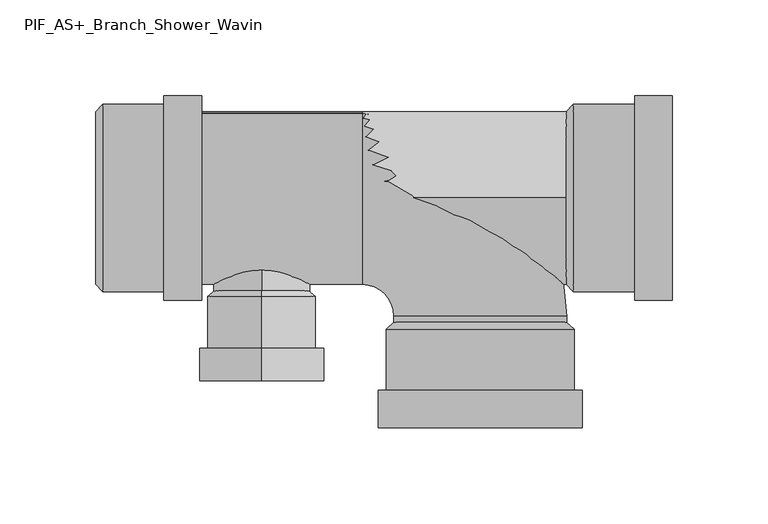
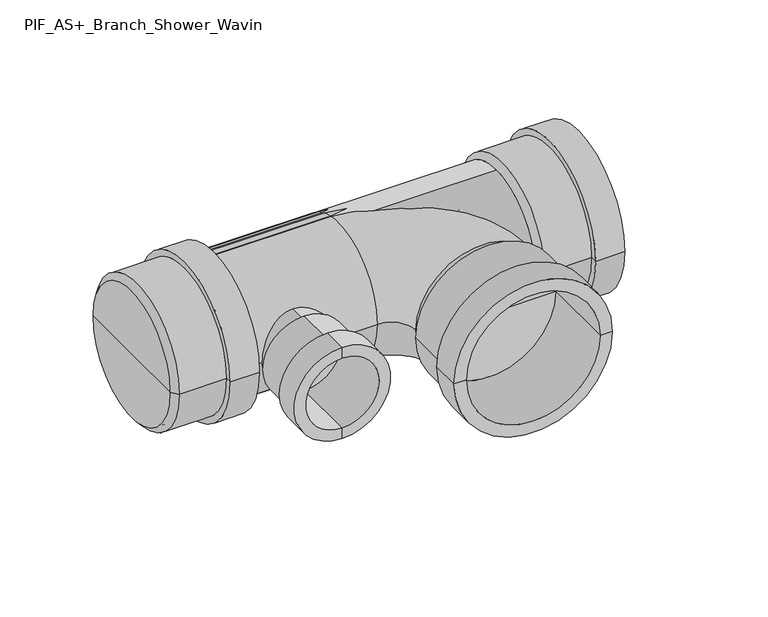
"""IFC4 building model written with IfcOpenShell, lengths in millimetres: pipe fitting geometry, PIF_AS+_Branch_Shower_Wavin : 1. DN100-50/90-50 Standard."""

from ifc_helpers import new_model, si_unit, point, frame, frame_2d, origin, origin_2d, place, context, project, spatial, polyline, circle_curve, ellipse_curve, trimmed, segment, composite_curve, outline, extrude, source, transform, mapped, element, save
from ifc_brep_helpers import plane_surface, cylinder_surface, revolved_surface, advanced_brep


def pif_as_branch_shower_wavin_03432781(model_context):
    return source(origin(), model_context, "Body", "SolidModel", [
        advanced_brep(
        [(-114.0, -48.3, -24.75), (-114.0, -48.3, 24.75), (-114.0, -51.3, 28.0), (-114.0, -51.3, -28.0), (-114.0, -48.3, 0.0), (-114.0, -51.3, -24.75), (-114.0, -51.3, 24.75), (-114.0, -51.3, 0.0), (-114.0, -95.3, -24.75), (-114.0, -95.3, 24.75), (-114.0, -95.3, -32.35), (-114.0, -95.3, 32.35), (-114.0, -78.3, -32.35), (-114.0, -78.3, 32.35), (-114.0, -78.3, -28.0), (-114.0, -78.3, 28.0)],
        [
            (0, 1, circle_curve(frame((-114.0, -48.3, 0.0), z_axis=(0.0, -1.0, 0.0), x_axis=(0.0, 0.0, 1.0)), 24.75)),
            (1, 2),
            (2, 3, circle_curve(frame((-114.0, -51.3, 0.0), z_axis=(0.0, 1.0, 0.0), x_axis=(0.0, 0.0, 1.0)), 28.0)),
            (3, 0),
            (1, 0, circle_curve(frame((-114.0, -48.3, 0.0), z_axis=(0.0, -1.0, 0.0), x_axis=(0.0, 0.0, 1.0)), 24.75)),
            (3, 2, circle_curve(frame((-114.0, -51.3, 0.0), z_axis=(0.0, 1.0, 0.0), x_axis=(0.0, 0.0, 1.0)), 28.0)),
            (4, 1),
            (0, 4),
            (5, 6, circle_curve(frame((-114.0, -51.3, 0.0), z_axis=(0.0, -1.0, 0.0), x_axis=(0.0, 0.0, 1.0)), 24.75)),
            (6, 7),
            (7, 5),
            (6, 5, circle_curve(frame((-114.0, -51.3, 0.0), z_axis=(0.0, -1.0, 0.0), x_axis=(0.0, 0.0, 1.0)), 24.75)),
            (8, 9, circle_curve(frame((-114.0, -95.3, 0.0), z_axis=(0.0, -1.0, 0.0), x_axis=(0.0, 0.0, 1.0)), 24.75)),
            (9, 6),
            (5, 8),
            (9, 8, circle_curve(frame((-114.0, -95.3, 0.0), z_axis=(0.0, -1.0, 0.0), x_axis=(0.0, 0.0, 1.0)), 24.75)),
            (10, 11, circle_curve(frame((-114.0, -95.3, 0.0), z_axis=(0.0, -1.0, 0.0), x_axis=(0.0, 0.0, 1.0)), 32.35)),
            (11, 9),
            (8, 10),
            (11, 10, circle_curve(frame((-114.0, -95.3, 0.0), z_axis=(0.0, -1.0, 0.0), x_axis=(0.0, 0.0, 1.0)), 32.35)),
            (12, 13, circle_curve(frame((-114.0, -78.3, 0.0), z_axis=(0.0, -1.0, 0.0), x_axis=(0.0, 0.0, 1.0)), 32.35)),
            (13, 11),
            (10, 12),
            (13, 12, circle_curve(frame((-114.0, -78.3, 0.0), z_axis=(0.0, -1.0, 0.0), x_axis=(0.0, 0.0, 1.0)), 32.35)),
            (14, 15, circle_curve(frame((-114.0, -78.3, 0.0), z_axis=(0.0, -1.0, 0.0), x_axis=(0.0, 0.0, 1.0)), 28.0)),
            (15, 13),
            (12, 14),
            (15, 14, circle_curve(frame((-114.0, -78.3, 0.0), z_axis=(0.0, -1.0, 0.0), x_axis=(0.0, 0.0, 1.0)), 28.0)),
            (2, 15),
            (14, 3),
        ],
        [
            revolved_surface(polyline([(-114.0, -51.3, 28.0), (-114.0, -48.3, 24.75)]), (-114.0, -1998.4265064, 0.0), (0.0, 1.0, 0.0)),
            plane_surface(frame((-114.0, -48.3, 0.0), z_axis=(0.0, 1.0, 0.0), x_axis=(0.0, 0.0, 1.0))),
            plane_surface(frame((-114.0, -51.3, 0.0), z_axis=(0.0, -1.0, 0.0), x_axis=(0.0, 0.0, 1.0))),
            revolved_surface(polyline([(-114.0, -51.299999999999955, 24.75), (-114.0, -95.29999999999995, 24.75)]), (-114.0, -1998.4265064, 0.0), (0.0, 1.0, 0.0)),
            plane_surface(frame((-114.0, -95.3, 0.0), z_axis=(0.0, -1.0, 0.0), x_axis=(0.0, 0.0, 1.0))),
            cylinder_surface(frame((-114.0, -1998.4265064, 0.0), z_axis=(0.0, 1.0, 0.0), x_axis=(0.0, 0.0, 1.0)), 32.35),
            plane_surface(frame((-114.0, -78.3, 0.0), z_axis=(0.0, 1.0, 0.0), x_axis=(0.0, 0.0, 1.0))),
            cylinder_surface(frame((-114.0, -1998.4265064, 0.0), z_axis=(0.0, 1.0, 0.0), x_axis=(0.0, 0.0, 1.0)), 28.0),
        ],
        [
            (0, [[1, 2, 3, 4]]),
            (0, [[5, -4, 6, -2]]),
            (1, [[7, -1, 8]]),
            (1, [[-8, -5, -7]]),
            (2, [[9, 10, 11]]),
            (2, [[12, -11, -10]]),
            (3, [[13, 14, -9, 15]]),
            (3, [[16, -15, -12, -14]]),
            (4, [[17, 18, -13, 19]]),
            (4, [[20, -19, -16, -18]]),
            (5, [[21, 22, -17, 23]]),
            (5, [[24, -23, -20, -22]]),
            (6, [[25, 26, -21, 27]]),
            (6, [[28, -27, -24, -26]]),
            (7, [[-3, 29, -25, 30]]),
            (7, [[-6, -30, -28, -29]]),
        ],
    ),
        advanced_brep(
        [(-200.4, -45.0, 0.0), (-200.4, 45.0, 0.0), (-196.8, 49.0, 0.0), (-196.8, -49.0, 0.0), (-200.4, 0.0, 0.0), (-196.8, -45.0, 0.0), (-196.8, 45.0, 0.0), (-196.8, 0.0, 0.0), (-145.3, -45.0, 0.0), (-145.3, 45.0, 0.0), (-145.3, -53.25, 0.0), (-145.3, 53.25, 0.0), (-164.9, -53.25, 0.0), (-164.9, 53.25, 0.0), (-164.9, -49.0, 0.0), (-164.9, 49.0, 0.0)],
        [
            (0, 1, circle_curve(frame((-200.4, 0.0, 0.0), z_axis=(1.0, 0.0, 0.0), x_axis=(0.0, 1.0, 0.0)), 45.0)),
            (1, 2),
            (2, 3, circle_curve(frame((-196.8, 0.0, 0.0), z_axis=(-1.0, 0.0, 0.0), x_axis=(0.0, 1.0, 0.0)), 49.0)),
            (3, 0),
            (1, 0, circle_curve(frame((-200.4, 0.0, 0.0), z_axis=(1.0, 0.0, 0.0), x_axis=(0.0, 1.0, 0.0)), 45.0)),
            (3, 2, circle_curve(frame((-196.8, 0.0, 0.0), z_axis=(-1.0, 0.0, 0.0), x_axis=(0.0, 1.0, 0.0)), 49.0)),
            (4, 1),
            (0, 4),
            (5, 6, circle_curve(frame((-196.8, 0.0, 0.0), z_axis=(1.0, 0.0, 0.0), x_axis=(0.0, 1.0, 0.0)), 45.0)),
            (6, 7),
            (7, 5),
            (6, 5, circle_curve(frame((-196.8, 0.0, 0.0), z_axis=(1.0, 0.0, 0.0), x_axis=(0.0, 1.0, 0.0)), 45.0)),
            (8, 9, circle_curve(frame((-145.3, 0.0, 0.0), z_axis=(1.0, 0.0, 0.0), x_axis=(0.0, 1.0, 0.0)), 45.0)),
            (9, 6),
            (5, 8),
            (9, 8, circle_curve(frame((-145.3, 0.0, 0.0), z_axis=(1.0, 0.0, 0.0), x_axis=(0.0, 1.0, 0.0)), 45.0)),
            (10, 11, circle_curve(frame((-145.3, 0.0, 0.0), z_axis=(1.0, 0.0, 0.0), x_axis=(0.0, 1.0, 0.0)), 53.25)),
            (11, 9),
            (8, 10),
            (11, 10, circle_curve(frame((-145.3, 0.0, 0.0), z_axis=(1.0, 0.0, 0.0), x_axis=(0.0, 1.0, 0.0)), 53.25)),
            (12, 13, circle_curve(frame((-164.9, 0.0, 0.0), z_axis=(1.0, 0.0, 0.0), x_axis=(0.0, 1.0, 0.0)), 53.25)),
            (13, 11),
            (10, 12),
            (13, 12, circle_curve(frame((-164.9, 0.0, 0.0), z_axis=(1.0, 0.0, 0.0), x_axis=(0.0, 1.0, 0.0)), 53.25)),
            (14, 15, circle_curve(frame((-164.9, 0.0, 0.0), z_axis=(1.0, 0.0, 0.0), x_axis=(0.0, 1.0, 0.0)), 49.0)),
            (15, 13),
            (12, 14),
            (15, 14, circle_curve(frame((-164.9, 0.0, 0.0), z_axis=(1.0, 0.0, 0.0), x_axis=(0.0, 1.0, 0.0)), 49.0)),
            (2, 15),
            (14, 3),
        ],
        [
            revolved_surface(polyline([(-196.8, 49.0, 0.0), (-200.4, 45.0, 0.0)]), (1757.8265064, 0.0, 0.0), (-1.0, 0.0, 0.0)),
            plane_surface(frame((-200.4, 0.0, 0.0), z_axis=(-1.0, 0.0, 0.0), x_axis=(0.0, 1.0, 0.0))),
            plane_surface(frame((-196.8, 0.0, 0.0), z_axis=(1.0, 0.0, 0.0), x_axis=(0.0, 1.0, 0.0))),
            revolved_surface(polyline([(-196.79999999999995, 45.0, 0.0), (-145.29999999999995, 45.0, 0.0)]), (1757.8265064, 0.0, 0.0), (-1.0, 0.0, 0.0)),
            plane_surface(frame((-145.3, 0.0, 0.0), z_axis=(1.0, 0.0, 0.0), x_axis=(0.0, 1.0, 0.0))),
            cylinder_surface(frame((1757.8265064, 0.0, 0.0), z_axis=(-1.0, 0.0, 0.0), x_axis=(0.0, 1.0, 0.0)), 53.25),
            plane_surface(frame((-164.9, 0.0, 0.0), z_axis=(-1.0, 0.0, 0.0), x_axis=(0.0, 1.0, 0.0))),
            cylinder_surface(frame((1757.8265064, 0.0, 0.0), z_axis=(-1.0, 0.0, 0.0), x_axis=(0.0, 1.0, 0.0)), 49.0),
        ],
        [
            (0, [[1, 2, 3, 4]]),
            (0, [[5, -4, 6, -2]]),
            (1, [[7, -1, 8]]),
            (1, [[-8, -5, -7]]),
            (2, [[9, 10, 11]]),
            (2, [[12, -11, -10]]),
            (3, [[13, 14, -9, 15]]),
            (3, [[16, -15, -12, -14]]),
            (4, [[17, 18, -13, 19]]),
            (4, [[20, -19, -16, -18]]),
            (5, [[21, 22, -17, 23]]),
            (5, [[24, -23, -20, -22]]),
            (6, [[25, 26, -21, 27]]),
            (6, [[28, -27, -24, -26]]),
            (7, [[-3, 29, -25, 30]]),
            (7, [[-6, -30, -28, -29]]),
        ],
    ),
        advanced_brep(
        [(-45.0, -64.8, 0.0), (45.0, -64.8, 0.0), (49.0, -68.4, 0.0), (-49.0, -68.4, 0.0), (0.0, -64.8, 0.0), (-45.0, -68.4, 0.0), (45.0, -68.4, 0.0), (0.0, -68.4, 0.0), (-45.0, -119.9, 0.0), (45.0, -119.9, 0.0), (-53.25, -119.9, 0.0), (53.25, -119.9, 0.0), (-53.25, -100.3, 0.0), (53.25, -100.3, 0.0), (-49.0, -100.3, 0.0), (49.0, -100.3, 0.0)],
        [
            (0, 1, circle_curve(frame((0.0, -64.8, 0.0), z_axis=(0.0, -1.0, 0.0), x_axis=(1.0000000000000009, 0.0, 0.0)), 45.0)),
            (1, 2),
            (2, 3, circle_curve(frame((0.0, -68.4, 0.0), z_axis=(0.0, 1.0, 0.0), x_axis=(1.0000000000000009, 0.0, 0.0)), 49.0)),
            (3, 0),
            (1, 0, circle_curve(frame((0.0, -64.8, 0.0), z_axis=(0.0, -1.0, 0.0), x_axis=(1.0000000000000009, 0.0, 0.0)), 45.0)),
            (3, 2, circle_curve(frame((0.0, -68.4, 0.0), z_axis=(0.0, 1.0, 0.0), x_axis=(1.0000000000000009, 0.0, 0.0)), 49.0)),
            (4, 1),
            (0, 4),
            (5, 6, circle_curve(frame((0.0, -68.4, 0.0), z_axis=(0.0, -1.0, 0.0), x_axis=(1.0000000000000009, 0.0, 0.0)), 45.0)),
            (6, 7),
            (7, 5),
            (6, 5, circle_curve(frame((0.0, -68.4, 0.0), z_axis=(0.0, -1.0, 0.0), x_axis=(1.0000000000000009, 0.0, 0.0)), 45.0)),
            (8, 9, circle_curve(frame((0.0, -119.9, 0.0), z_axis=(0.0, -1.0, 0.0), x_axis=(1.0000000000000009, 0.0, 0.0)), 45.0)),
            (9, 6),
            (5, 8),
            (9, 8, circle_curve(frame((0.0, -119.9, 0.0), z_axis=(0.0, -1.0, 0.0), x_axis=(1.0000000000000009, 0.0, 0.0)), 45.0)),
            (10, 11, circle_curve(frame((0.0, -119.9, 0.0), z_axis=(0.0, -1.0, 0.0), x_axis=(1.0000000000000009, 0.0, 0.0)), 53.25)),
            (11, 9),
            (8, 10),
            (11, 10, circle_curve(frame((0.0, -119.9, 0.0), z_axis=(0.0, -1.0, 0.0), x_axis=(1.0000000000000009, 0.0, 0.0)), 53.25)),
            (12, 13, circle_curve(frame((0.0, -100.3, 0.0), z_axis=(0.0, -1.0, 0.0), x_axis=(1.0000000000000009, 0.0, 0.0)), 53.25)),
            (13, 11),
            (10, 12),
            (13, 12, circle_curve(frame((0.0, -100.3, 0.0), z_axis=(0.0, -1.0, 0.0), x_axis=(1.0000000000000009, 0.0, 0.0)), 53.25)),
            (14, 15, circle_curve(frame((0.0, -100.3, 0.0), z_axis=(0.0, -1.0, 0.0), x_axis=(1.0000000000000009, 0.0, 0.0)), 49.0)),
            (15, 13),
            (12, 14),
            (15, 14, circle_curve(frame((0.0, -100.3, 0.0), z_axis=(0.0, -1.0, 0.0), x_axis=(1.0000000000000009, 0.0, 0.0)), 49.0)),
            (2, 15),
            (14, 3),
        ],
        [
            revolved_surface(polyline([(49.0, -68.4, 0.0), (45.0, -64.8, 0.0)]), (0.0, -2023.0265064, 0.0), (0.0, 1.0000000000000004, 0.0)),
            plane_surface(frame((0.0, -64.8, 0.0), z_axis=(0.0, 1.0, 0.0), x_axis=(1.0, 0.0, 0.0))),
            plane_surface(frame((0.0, -68.4, 0.0), z_axis=(0.0, -1.0, 0.0), x_axis=(1.0, 0.0, 0.0))),
            revolved_surface(polyline([(45.00000000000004, -68.39999999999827, 0.0), (45.00000000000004, -119.89999999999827, 0.0)]), (0.0, -2023.0265064, 0.0), (0.0, 1.0000000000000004, 0.0)),
            plane_surface(frame((0.0, -119.9, 0.0), z_axis=(0.0, -1.0, 0.0), x_axis=(1.0, 0.0, 0.0))),
            cylinder_surface(frame((0.0, -2023.0265064, 0.0), z_axis=(0.0, 1.0000000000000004, 0.0), x_axis=(1.0000000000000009, 0.0, 0.0)), 53.25),
            plane_surface(frame((0.0, -100.3, 0.0), z_axis=(0.0, 1.0, 0.0), x_axis=(1.0, 0.0, 0.0))),
            cylinder_surface(frame((0.0, -2023.0265064, 0.0), z_axis=(0.0, 1.0000000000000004, 0.0), x_axis=(1.0000000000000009, 0.0, 0.0)), 49.0),
        ],
        [
            (0, [[1, 2, 3, 4]]),
            (0, [[5, -4, 6, -2]]),
            (1, [[7, -1, 8]]),
            (1, [[-8, -5, -7]]),
            (2, [[9, 10, 11]]),
            (2, [[12, -11, -10]]),
            (3, [[13, 14, -9, 15]]),
            (3, [[16, -15, -12, -14]]),
            (4, [[17, 18, -13, 19]]),
            (4, [[20, -19, -16, -18]]),
            (5, [[21, 22, -17, 23]]),
            (5, [[24, -23, -20, -22]]),
            (6, [[25, 26, -21, 27]]),
            (6, [[28, -27, -24, -26]]),
            (7, [[-3, 29, -25, 30]]),
            (7, [[-6, -30, -28, -29]]),
        ],
    ),
        advanced_brep(
        [(45.0, -45.0, 0.0), (45.0, 45.0, 0.0), (48.6, 49.0, 0.0), (48.6, -49.0, 0.0), (45.0, 0.0, 0.0), (48.6, -45.0, 0.0), (48.6, 45.0, 0.0), (48.6, 0.0, 0.0), (100.1, -45.0, 0.0), (100.1, 45.0, 0.0), (100.1, -53.25, 0.0), (100.1, 53.25, 0.0), (80.5, -53.25, 0.0), (80.5, 53.25, 0.0), (80.5, -49.0, 0.0), (80.5, 49.0, 0.0)],
        [
            (0, 1, circle_curve(frame((45.0, 0.0, 0.0), z_axis=(1.0, 0.0, 0.0), x_axis=(0.0, 1.0000000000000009, 0.0)), 45.0)),
            (1, 2),
            (2, 3, circle_curve(frame((48.6, 0.0, 0.0), z_axis=(-1.0, 0.0, 0.0), x_axis=(0.0, 1.0000000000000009, 0.0)), 49.0)),
            (3, 0),
            (1, 0, circle_curve(frame((45.0, 0.0, 0.0), z_axis=(1.0, 0.0, 0.0), x_axis=(0.0, 1.0000000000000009, 0.0)), 45.0)),
            (3, 2, circle_curve(frame((48.6, 0.0, 0.0), z_axis=(-1.0, 0.0, 0.0), x_axis=(0.0, 1.0000000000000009, 0.0)), 49.0)),
            (4, 1),
            (0, 4),
            (5, 6, circle_curve(frame((48.6, 0.0, 0.0), z_axis=(1.0, 0.0, 0.0), x_axis=(0.0, 1.0000000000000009, 0.0)), 45.0)),
            (6, 7),
            (7, 5),
            (6, 5, circle_curve(frame((48.6, 0.0, 0.0), z_axis=(1.0, 0.0, 0.0), x_axis=(0.0, 1.0000000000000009, 0.0)), 45.0)),
            (8, 9, circle_curve(frame((100.1, 0.0, 0.0), z_axis=(1.0, 0.0, 0.0), x_axis=(0.0, 1.0000000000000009, 0.0)), 45.0)),
            (9, 6),
            (5, 8),
            (9, 8, circle_curve(frame((100.1, 0.0, 0.0), z_axis=(1.0, 0.0, 0.0), x_axis=(0.0, 1.0000000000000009, 0.0)), 45.0)),
            (10, 11, circle_curve(frame((100.1, 0.0, 0.0), z_axis=(1.0, 0.0, 0.0), x_axis=(0.0, 1.0000000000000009, 0.0)), 53.25)),
            (11, 9),
            (8, 10),
            (11, 10, circle_curve(frame((100.1, 0.0, 0.0), z_axis=(1.0, 0.0, 0.0), x_axis=(0.0, 1.0000000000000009, 0.0)), 53.25)),
            (12, 13, circle_curve(frame((80.5, 0.0, 0.0), z_axis=(1.0, 0.0, 0.0), x_axis=(0.0, 1.0000000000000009, 0.0)), 53.25)),
            (13, 11),
            (10, 12),
            (13, 12, circle_curve(frame((80.5, 0.0, 0.0), z_axis=(1.0, 0.0, 0.0), x_axis=(0.0, 1.0000000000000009, 0.0)), 53.25)),
            (14, 15, circle_curve(frame((80.5, 0.0, 0.0), z_axis=(1.0, 0.0, 0.0), x_axis=(0.0, 1.0000000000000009, 0.0)), 49.0)),
            (15, 13),
            (12, 14),
            (15, 14, circle_curve(frame((80.5, 0.0, 0.0), z_axis=(1.0, 0.0, 0.0), x_axis=(0.0, 1.0000000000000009, 0.0)), 49.0)),
            (2, 15),
            (14, 3),
        ],
        [
            revolved_surface(polyline([(48.6, 49.0, 0.0), (45.0, 45.0, 0.0)]), (2003.2265064, 0.0, 0.0), (-1.0000000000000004, 0.0, 0.0)),
            plane_surface(frame((45.0, 0.0, 0.0), z_axis=(-1.0, 0.0, 0.0), x_axis=(0.0, 1.0, 0.0))),
            plane_surface(frame((48.6, 0.0, 0.0), z_axis=(1.0, 0.0, 0.0), x_axis=(0.0, 1.0, 0.0))),
            revolved_surface(polyline([(48.59999999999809, 45.00000000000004, 0.0), (100.09999999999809, 45.00000000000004, 0.0)]), (2003.2265064, 0.0, 0.0), (-1.0000000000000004, 0.0, 0.0)),
            plane_surface(frame((100.1, 0.0, 0.0), z_axis=(1.0, 0.0, 0.0), x_axis=(0.0, 1.0, 0.0))),
            cylinder_surface(frame((2003.2265064, 0.0, 0.0), z_axis=(-1.0000000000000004, 0.0, 0.0), x_axis=(0.0, 1.0000000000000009, 0.0)), 53.25),
            plane_surface(frame((80.5, 0.0, 0.0), z_axis=(-1.0, 0.0, 0.0), x_axis=(0.0, 1.0, 0.0))),
            cylinder_surface(frame((2003.2265064, 0.0, 0.0), z_axis=(-1.0000000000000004, 0.0, 0.0), x_axis=(0.0, 1.0000000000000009, 0.0)), 49.0),
        ],
        [
            (0, [[1, 2, 3, 4]]),
            (0, [[5, -4, 6, -2]]),
            (1, [[7, -1, 8]]),
            (1, [[-8, -5, -7]]),
            (2, [[9, 10, 11]]),
            (2, [[12, -11, -10]]),
            (3, [[13, 14, -9, 15]]),
            (3, [[16, -15, -12, -14]]),
            (4, [[17, 18, -13, 19]]),
            (4, [[20, -19, -16, -18]]),
            (5, [[21, 22, -17, 23]]),
            (5, [[24, -23, -20, -22]]),
            (6, [[25, 26, -21, 27]]),
            (6, [[28, -27, -24, -26]]),
            (7, [[-3, 29, -25, 30]]),
            (7, [[-6, -30, -28, -29]]),
        ],
    ),
        advanced_brep(
        [(-196.8, -45.05, 0.0), (-196.8, 45.05, 0.0), (-61.56, -45.05, 0.0), (-61.56, 45.05, 0.0), (-45.05, -68.4, 0.0), (45.05, -68.4, 0.0), (45.05, -61.56, 0.0), (-45.05, -61.56, 0.0)],
        [
            (0, 1, circle_curve(frame((-196.8, 0.0, 0.0), z_axis=(-1.0, 0.0, 0.0), x_axis=(0.0, 1.0, 0.0)), 45.05)),
            (1, 0, circle_curve(frame((-196.8, 0.0, 0.0), z_axis=(-1.0, 0.0, 0.0), x_axis=(0.0, 1.0, 0.0)), 45.05)),
            (0, 2),
            (2, 3, circle_curve(frame((-61.56, 0.0, 0.0), z_axis=(-1.0, 0.0, 0.0), x_axis=(0.0, 1.0, 0.0)), 45.05)),
            (3, 1),
            (3, 2, circle_curve(frame((-61.56, 0.0, 0.0), z_axis=(-1.0, 0.0, 0.0), x_axis=(0.0, 1.0, 0.0)), 45.05)),
            (4, 5, circle_curve(frame((0.0, -68.4, 0.0), z_axis=(0.0, -1.0, 0.0), x_axis=(1.0, 0.0, 0.0)), 45.05)),
            (5, 4, circle_curve(frame((0.0, -68.4, 0.0), z_axis=(0.0, -1.0, 0.0), x_axis=(1.0, 0.0, 0.0)), 45.05)),
            (6, 7, circle_curve(frame((0.0, -61.56, 0.0), z_axis=(0.0, -1.0, 0.0), x_axis=(1.0, 0.0, 0.0)), 45.05)),
            (7, 4),
            (5, 6),
            (7, 6, circle_curve(frame((0.0, -61.56, 0.0), z_axis=(0.0, -1.0, 0.0), x_axis=(1.0, 0.0, 0.0)), 45.05)),
            (6, 3, circle_curve(frame((-61.56, -61.56, 0.0), z_axis=(0.0, 0.0, 1.0), x_axis=(0.0, 1.0, 0.0)), 106.61)),
            (2, 7, circle_curve(frame((-61.56, -61.56, 0.0), z_axis=(0.0, 0.0, -1.0), x_axis=(0.0, 1.0, 0.0)), 16.51)),
        ],
        [
            plane_surface(frame((-196.8, 0.0, 0.0), z_axis=(-1.0, 0.0, 0.0), x_axis=(0.0, 0.0, 1.0))),
            cylinder_surface(frame((-196.8, 0.0, 0.0), z_axis=(-1.0, 0.0, 0.0), x_axis=(0.0, 1.0, 0.0)), 45.05),
            plane_surface(frame((0.0, -68.4, 0.0), z_axis=(0.0, -1.0, 0.0), x_axis=(0.0, 0.0, 1.0))),
            cylinder_surface(frame((0.0, -61.56, 0.0), z_axis=(0.0, 1.0, 0.0), x_axis=(1.0, 0.0, 0.0)), 45.05),
            revolved_surface(trimmed(ellipse_curve(frame((-61.56, 0.0, 0.0), z_axis=(-1.0, 0.0, 0.0), x_axis=(0.0, 1.0, 0.0)), 45.05, 45.05), [point((-61.56, -45.05, 0.0))], [point((-61.56, 45.05, 0.0))], True, "CARTESIAN"), (-61.56, -61.56, 0.0), (0.0, 0.0, -1.0)),
            revolved_surface(trimmed(ellipse_curve(frame((-61.56, 0.0, 0.0), z_axis=(-1.0, 0.0, 0.0), x_axis=(0.0, 1.0, 0.0)), 45.05, 45.05), [point((-61.56, 45.05, 0.0))], [point((-61.56, -45.05, 0.0))], True, "CARTESIAN"), (-61.56, -61.56, 0.0), (0.0, 0.0, -1.0)),
        ],
        [
            (0, [[1, 2]]),
            (1, [[-1, 3, 4, 5]]),
            (1, [[-2, -5, 6, -3]]),
            (2, [[7, 8]]),
            (3, [[9, 10, -8, 11]]),
            (3, [[12, -11, -7, -10]]),
            (4, [[13, -4, 14, -9]]),
            (5, [[-14, -6, -13, -12]]),
        ],
    ),
        extrude(outline(composite_curve([segment(trimmed(circle_curve(frame_2d((0.0, -114.0)), 25.0), [point((-25.0, -114.0))], [point((25.0, -114.0))], False, "CARTESIAN"), True, "CONTINUOUS"), segment(trimmed(circle_curve(frame_2d((0.0, -114.0)), 25.0), [point((25.0, -114.0))], [point((-25.0, -114.0))], False, "CARTESIAN"), True, "CONTINUOUS")], self_intersect=False)), frame((0.0, -51.3, 0.0), z_axis=(0.0, 1.0, 0.0), x_axis=(0.0, 0.0, 1.0)), (0.0, 0.0, 1.0), 51.3),
        extrude(outline(composite_curve([segment(trimmed(circle_curve(origin_2d(), 45.05), [point((0.0, -45.05))], [point((0.0, 45.05))], False, "CARTESIAN"), True, "CONTINUOUS"), segment(trimmed(circle_curve(origin_2d(), 45.05), [point((0.0, 45.05))], [point((0.0, -45.05))], False, "CARTESIAN"), True, "CONTINUOUS")], self_intersect=False)), frame((-196.8, 0.0, 0.0), z_axis=(1.0, 0.0, 0.0), x_axis=(0.0, 1.0, 0.0)), (0.0, 0.0, 1.0), 245.4),
    ])


if __name__ == "__main__":
    model = new_model("IFC4")
    model_context = context("Model", 3, world=origin())
    ifc_project = project(units=[si_unit("LENGTHUNIT", "METRE", prefix="MILLI")], contexts=[model_context])
    site = spatial("IfcSite", under=ifc_project)
    building = spatial("IfcBuilding", under=site)
    placement = place(None, origin())
    pif_as_branch_shower_wavin_shape = pif_as_branch_shower_wavin_03432781(model_context)
    element("IfcPipeFitting", 1, ObjectType="PIF_AS+_Branch_Shower_Wavin : 1. DN100-50/90-50 Standard", at=placement, inside=building, context=model_context, shape_type="MappedRepresentation", body=[
        mapped(pif_as_branch_shower_wavin_shape, transform((0.0, 0.0, 0.0), x_axis=(1.0, 0.0, 0.0), y_axis=(0.0, 1.0, 0.0), z_axis=(0.0, 0.0, 1.0))),
    ])
    save(model, "model.ifc")
